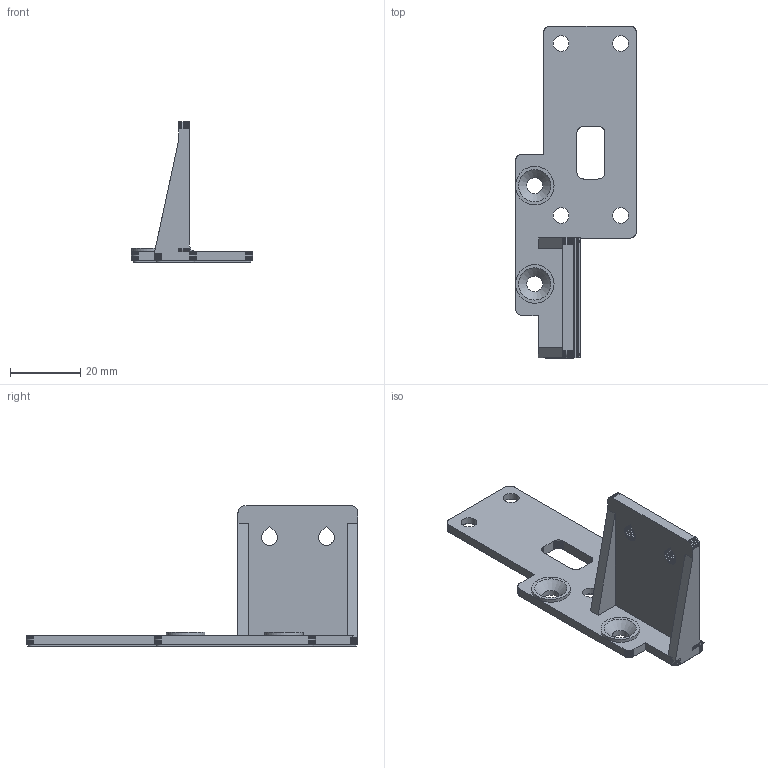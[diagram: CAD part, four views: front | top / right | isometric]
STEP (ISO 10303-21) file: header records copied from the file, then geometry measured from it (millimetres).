
FILE_DESCRIPTION(('Open CASCADE Model'),'2;1');
FILE_NAME('Open CASCADE Shape Model','2026-11-27T19:31:40',('Author'),( 'Open CASCADE'),'Open CASCADE STEP processor 8.0','build123d', 'Unknown');
FILE_SCHEMA(('AUTOMOTIVE_DESIGN { 1 0 10303 214 1 1 1 1 }'));
Length unit declared in the file: millimetre
Products named in the file (2): =>[0:1:1:2]; SOLID
Assembly tree (1 placements, depth 2):
  =>[0:1:1:2]
    SOLID
Bounding box: 34.5 x 94.6 x 40 mm (x, y, z)
Volume: 10667.6 mm3; surface area: 8651.6 mm2
Topology: 1 solids, 1 shells, 496 faces, 1457 edges, 967 vertices
Faces by surface type: plane 482, cylinder 12, cone 2
Full cylindrical faces by diameter (mm): 4.5 x6, 7 x4, 11 x2
Entity records: 34839 total; most frequent: CARTESIAN_POINT 6241, DIRECTION 5050, LINE 3986, VECTOR 3986, ORIENTED_EDGE 2910, PCURVE 2910, DEFINITIONAL_REPRESENTATION 2910, EDGE_CURVE 1455
